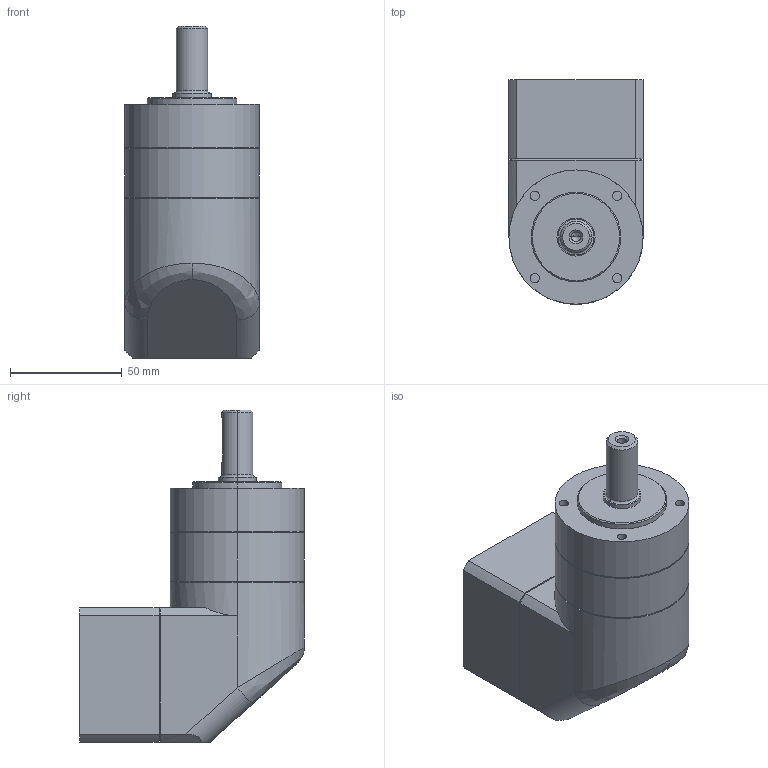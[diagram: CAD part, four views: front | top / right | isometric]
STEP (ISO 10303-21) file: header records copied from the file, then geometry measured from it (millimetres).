
FILE_DESCRIPTION (( 'STEP AP214' ), '1' );
FILE_NAME ('PER-060-L1-S2-P2 14-50-70-M5.STEP', '2023-01-05T07:07:26', ( 'Admin' ), ( '' ), 'SwSTEP 2.0', 'SolidWorks 2018', '' );
FILE_SCHEMA (( 'AUTOMOTIVE_DESIGN' ));
Length unit declared in the file: millimetre
Products named in the file (1): PER-060-L1-S2-P2 14-50-70-M5
Bounding box: 60 x 100.5 x 148.5 mm (x, y, z)
Volume: 405848.9 mm3; surface area: 48839.4 mm2
Topology: 1 solids, 1 shells, 113 faces, 250 edges, 157 vertices
Faces by surface type: cylinder 53, plane 40, cone 16, bspline 2, torus 2
Entity records: 3392 total; most frequent: CARTESIAN_POINT 794, DIRECTION 566, ORIENTED_EDGE 496, EDGE_CURVE 248, AXIS2_PLACEMENT_3D 227, VERTEX_POINT 157, EDGE_LOOP 133, CIRCLE 115
